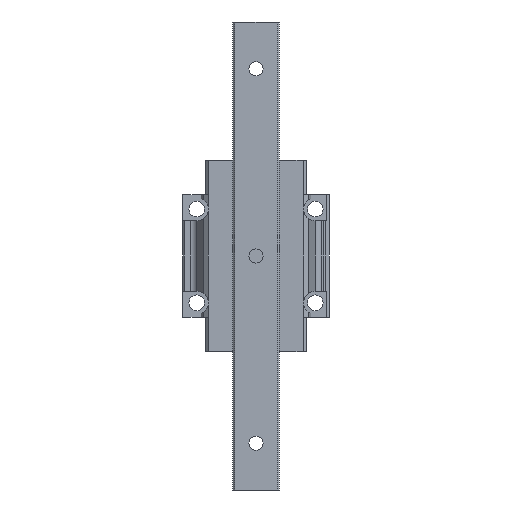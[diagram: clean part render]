
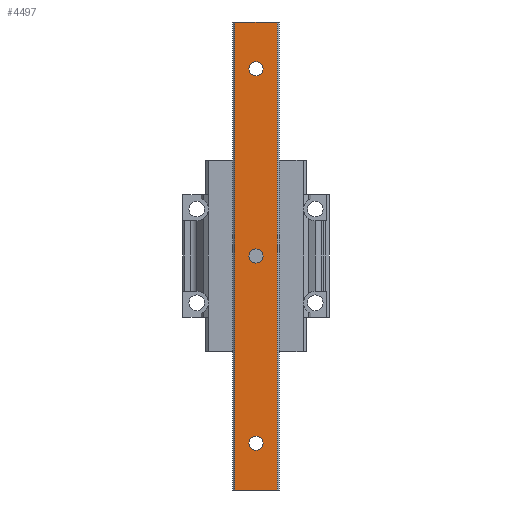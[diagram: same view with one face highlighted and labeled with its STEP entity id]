
A CAD part, front view. The second image highlights one B-rep face of the part: STEP entity #4497.
In plain terms, the highlighted planar face has unit normal (0, -1, 0).
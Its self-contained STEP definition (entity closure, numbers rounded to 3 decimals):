
#201 = EDGE_CURVE ( 'NONE', #4028, #2343, #3234, .T. ) ;
#459 = EDGE_CURVE ( 'NONE', #1302, #13519, #30551, .T. ) ;
#1302 = VERTEX_POINT ( 'NONE', #13130 ) ;
#1694 = CARTESIAN_POINT ( 'NONE',  ( 0., -15., -60. ) ) ;
#2343 = VERTEX_POINT ( 'NONE', #22879 ) ;
#2631 = AXIS2_PLACEMENT_3D ( 'NONE', #27114, #7948, #18538 ) ;
#3234 = LINE ( 'NONE', #11315, #14371 ) ;
#3314 = ORIENTED_EDGE ( 'NONE', *, *, #16569, .T. ) ;
#3524 = LINE ( 'NONE', #14685, #10344 ) ;
#4000 = ORIENTED_EDGE ( 'NONE', *, *, #11407, .T. ) ;
#4028 = VERTEX_POINT ( 'NONE', #27146 ) ;
#4497 = ADVANCED_FACE ( 'NONE', ( #12467, #24151, #23596, #34727 ), #18670, .T. ) ;
#5064 = CARTESIAN_POINT ( 'NONE',  ( 0., -15., 60. ) ) ;
#5295 = LINE ( 'NONE', #13548, #22722 ) ;
#5501 = ORIENTED_EDGE ( 'NONE', *, *, #32990, .T. ) ;
#6090 = DIRECTION ( 'NONE',  ( 0., 1., 0. ) ) ;
#6351 = ORIENTED_EDGE ( 'NONE', *, *, #14168, .T. ) ;
#6731 = VECTOR ( 'NONE', #34985, 1000. ) ;
#7082 = EDGE_LOOP ( 'NONE', ( #32902, #25601 ) ) ;
#7166 = CARTESIAN_POINT ( 'NONE',  ( -2.25, -15., 0. ) ) ;
#7948 = DIRECTION ( 'NONE',  ( 0., 1., 0. ) ) ;
#8010 = DIRECTION ( 'NONE',  ( -1., 0., 0. ) ) ;
#8572 = CIRCLE ( 'NONE', #30719, 2.25 ) ;
#8668 = CIRCLE ( 'NONE', #23843, 2.25 ) ;
#8697 = EDGE_LOOP ( 'NONE', ( #32138, #5501, #25274, #6351 ) ) ;
#9669 = CIRCLE ( 'NONE', #2631, 2.25 ) ;
#10240 = VERTEX_POINT ( 'NONE', #15468 ) ;
#10312 = DIRECTION ( 'NONE',  ( 0., 1., 0. ) ) ;
#10344 = VECTOR ( 'NONE', #25820, 1000. ) ;
#10527 = CARTESIAN_POINT ( 'NONE',  ( -6.8, -15., 75. ) ) ;
#11299 = EDGE_CURVE ( 'NONE', #13519, #1302, #9669, .T. ) ;
#11315 = CARTESIAN_POINT ( 'NONE',  ( 6.8, -15., -75. ) ) ;
#11407 = EDGE_CURVE ( 'NONE', #25245, #31996, #20743, .T. ) ;
#12467 = FACE_BOUND ( 'NONE', #7082, .T. ) ;
#13130 = CARTESIAN_POINT ( 'NONE',  ( -2.25, -15., 60. ) ) ;
#13519 = VERTEX_POINT ( 'NONE', #25896 ) ;
#13548 = CARTESIAN_POINT ( 'NONE',  ( -6.8, -15., -75. ) ) ;
#14168 = EDGE_CURVE ( 'NONE', #25149, #4028, #5295, .T. ) ;
#14371 = VECTOR ( 'NONE', #22449, 1000. ) ;
#14685 = CARTESIAN_POINT ( 'NONE',  ( -6.8, -15., 75. ) ) ;
#14918 = ORIENTED_EDGE ( 'NONE', *, *, #28644, .T. ) ;
#15468 = CARTESIAN_POINT ( 'NONE',  ( 2.25, -15., -60. ) ) ;
#16569 = EDGE_CURVE ( 'NONE', #10240, #32763, #8668, .T. ) ;
#16771 = CIRCLE ( 'NONE', #23178, 2.25 ) ;
#17884 = CARTESIAN_POINT ( 'NONE',  ( 0., -15., -60. ) ) ;
#18173 = DIRECTION ( 'NONE',  ( -1., 0., 0. ) ) ;
#18335 = CARTESIAN_POINT ( 'NONE',  ( 2.25, -15., 0. ) ) ;
#18538 = DIRECTION ( 'NONE',  ( -1., 0., 0. ) ) ;
#18670 = PLANE ( 'NONE',  #33327 ) ;
#18876 = DIRECTION ( 'NONE',  ( 0., 1., 0. ) ) ;
#19008 = EDGE_CURVE ( 'NONE', #32763, #10240, #16771, .T. ) ;
#19935 = EDGE_CURVE ( 'NONE', #31472, #25149, #24213, .T. ) ;
#20743 = CIRCLE ( 'NONE', #30645, 2.25 ) ;
#20865 = CARTESIAN_POINT ( 'NONE',  ( -6.8, -15., -75. ) ) ;
#21456 = DIRECTION ( 'NONE',  ( -1., 0., 0. ) ) ;
#21654 = CARTESIAN_POINT ( 'NONE',  ( 0., -15., 0. ) ) ;
#22449 = DIRECTION ( 'NONE',  ( 0., 0., 1. ) ) ;
#22722 = VECTOR ( 'NONE', #24857, 1000. ) ;
#22879 = CARTESIAN_POINT ( 'NONE',  ( 6.8, -15., 75. ) ) ;
#22902 = CARTESIAN_POINT ( 'NONE',  ( 0., -15., 0. ) ) ;
#23178 = AXIS2_PLACEMENT_3D ( 'NONE', #17884, #31567, #23391 ) ;
#23391 = DIRECTION ( 'NONE',  ( -1., 0., 0. ) ) ;
#23405 = EDGE_LOOP ( 'NONE', ( #36151, #3314 ) ) ;
#23596 = FACE_BOUND ( 'NONE', #27425, .T. ) ;
#23843 = AXIS2_PLACEMENT_3D ( 'NONE', #1694, #18876, #21456 ) ;
#24151 = FACE_BOUND ( 'NONE', #23405, .T. ) ;
#24213 = LINE ( 'NONE', #32041, #6731 ) ;
#24857 = DIRECTION ( 'NONE',  ( 1., 0., 0. ) ) ;
#25149 = VERTEX_POINT ( 'NONE', #32753 ) ;
#25245 = VERTEX_POINT ( 'NONE', #7166 ) ;
#25274 = ORIENTED_EDGE ( 'NONE', *, *, #19935, .T. ) ;
#25601 = ORIENTED_EDGE ( 'NONE', *, *, #11299, .T. ) ;
#25814 = DIRECTION ( 'NONE',  ( -1., 0., 0. ) ) ;
#25820 = DIRECTION ( 'NONE',  ( -1., 0., 0. ) ) ;
#25896 = CARTESIAN_POINT ( 'NONE',  ( 2.25, -15., 60. ) ) ;
#27114 = CARTESIAN_POINT ( 'NONE',  ( 0., -15., 60. ) ) ;
#27146 = CARTESIAN_POINT ( 'NONE',  ( 6.8, -15., -75. ) ) ;
#27425 = EDGE_LOOP ( 'NONE', ( #4000, #14918 ) ) ;
#28590 = CARTESIAN_POINT ( 'NONE',  ( -2.25, -15., -60. ) ) ;
#28644 = EDGE_CURVE ( 'NONE', #31996, #25245, #8572, .T. ) ;
#29260 = DIRECTION ( 'NONE',  ( 0., -1., 0. ) ) ;
#30276 = DIRECTION ( 'NONE',  ( 0., 1., 0. ) ) ;
#30551 = CIRCLE ( 'NONE', #34036, 2.25 ) ;
#30645 = AXIS2_PLACEMENT_3D ( 'NONE', #22902, #6090, #25814 ) ;
#30719 = AXIS2_PLACEMENT_3D ( 'NONE', #21654, #10312, #18173 ) ;
#31472 = VERTEX_POINT ( 'NONE', #10527 ) ;
#31567 = DIRECTION ( 'NONE',  ( 0., 1., 0. ) ) ;
#31970 = DIRECTION ( 'NONE',  ( 0., 0., -1. ) ) ;
#31996 = VERTEX_POINT ( 'NONE', #18335 ) ;
#32041 = CARTESIAN_POINT ( 'NONE',  ( -6.8, -15., -75. ) ) ;
#32138 = ORIENTED_EDGE ( 'NONE', *, *, #201, .T. ) ;
#32753 = CARTESIAN_POINT ( 'NONE',  ( -6.8, -15., -75. ) ) ;
#32763 = VERTEX_POINT ( 'NONE', #28590 ) ;
#32902 = ORIENTED_EDGE ( 'NONE', *, *, #459, .T. ) ;
#32990 = EDGE_CURVE ( 'NONE', #2343, #31472, #3524, .T. ) ;
#33327 = AXIS2_PLACEMENT_3D ( 'NONE', #20865, #29260, #31970 ) ;
#34036 = AXIS2_PLACEMENT_3D ( 'NONE', #5064, #30276, #8010 ) ;
#34727 = FACE_OUTER_BOUND ( 'NONE', #8697, .T. ) ;
#34985 = DIRECTION ( 'NONE',  ( 0., 0., -1. ) ) ;
#36151 = ORIENTED_EDGE ( 'NONE', *, *, #19008, .T. ) ;
